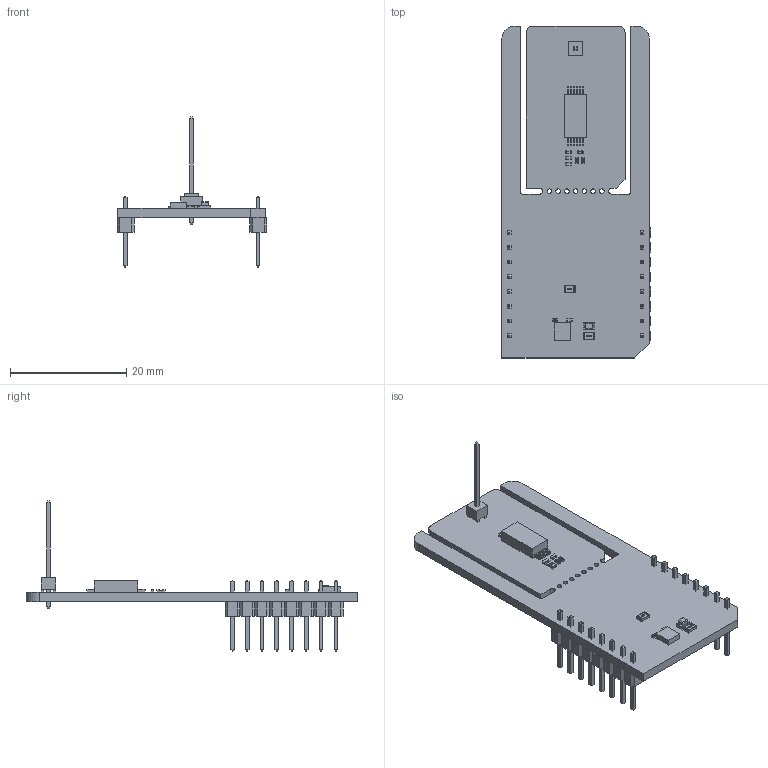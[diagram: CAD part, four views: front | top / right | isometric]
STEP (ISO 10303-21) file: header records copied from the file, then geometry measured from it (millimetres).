
FILE_DESCRIPTION(('Open CASCADE Model'),'2;1');
FILE_NAME('Open CASCADE Shape Model','2026-04-16T08:18:08',('Author'),( 'Open CASCADE'),'Open CASCADE STEP processor 7.5','Open CASCADE 7.5' ,'Unknown');
FILE_SCHEMA(('AUTOMOTIVE_DESIGN { 1 0 10303 214 1 1 1 1 }'));
Length unit declared in the file: millimetre
Products named in the file (37): PCB; Board; Open CASCADE STEP translator 7.5 1.1.1; JP1; User Library-R_0805; MBD1; Header 1x8; Free-Models; 1240637040; User_Library-PinHeaderX5-1_PinHeaderX5_Body_1; User_Library-PinHeaderX5-1_PinHeaderX5_Pins_1; U1; 6697602496; Extruded; R2; User Library-R_0402; R1; LD1; led_0805_green; C1; User Library-SMD CAPACITOR0402; C2; C3; C5; R3; R4; TP1; TSW-101-15-T-S; _TSW-101-15-T-S_body; _T-1S6-09-TSW-1-15-1-S; U2; 6697602176; 6697601216; C4
Assembly tree (56 placements, depth 7):
  PCB
    Board
      Open CASCADE STEP translator 7.5 1.1.1
    JP1
      User Library-R_0805
    MBD1
      Header 1x8  x2
        PCB
          Free-Models
            1240637040  x2
              User_Library-PinHeaderX5-1_PinHeaderX5_Body_1
              User_Library-PinHeaderX5-1_PinHeaderX5_Pins_1
    U1
      6697602496
        Extruded
    R2
      User Library-R_0402
    R1
      User Library-R_0805
    LD1
      led_0805_green
    C1
      User Library-SMD CAPACITOR0402
    C2
      User Library-SMD CAPACITOR0402
    C3
      User Library-SMD CAPACITOR0402
    C5
      User Library-SMD CAPACITOR0402
    R3
      User Library-R_0402
    R4
      User Library-R_0402
    TP1
      TSW-101-15-T-S
        _TSW-101-15-T-S_body
        _T-1S6-09-TSW-1-15-1-S
    U2
      6697602176  x12
        Extruded
      6697601216
        Extruded
    C4
      User Library-SMD CAPACITOR0402
Bounding box: 25.78 x 57.15 x 25.86 mm (x, y, z)
Volume: 2747.3 mm3; surface area: 4851.3 mm2
Topology: 51 solids, 51 shells, 1335 faces, 3290 edges, 2064 vertices
Faces by surface type: plane 1023, bspline 162, cylinder 106, sphere 44
Full cylindrical faces by diameter (mm): 0.8 x7
Entity records: 22189 total; most frequent: CARTESIAN_POINT 6964, ORIENTED_EDGE 2454, DIRECTION 2145, EDGE_CURVE 1227, LINE 1003, VECTOR 1003, VERTEX_POINT 790, AXIS2_PLACEMENT_3D 571
